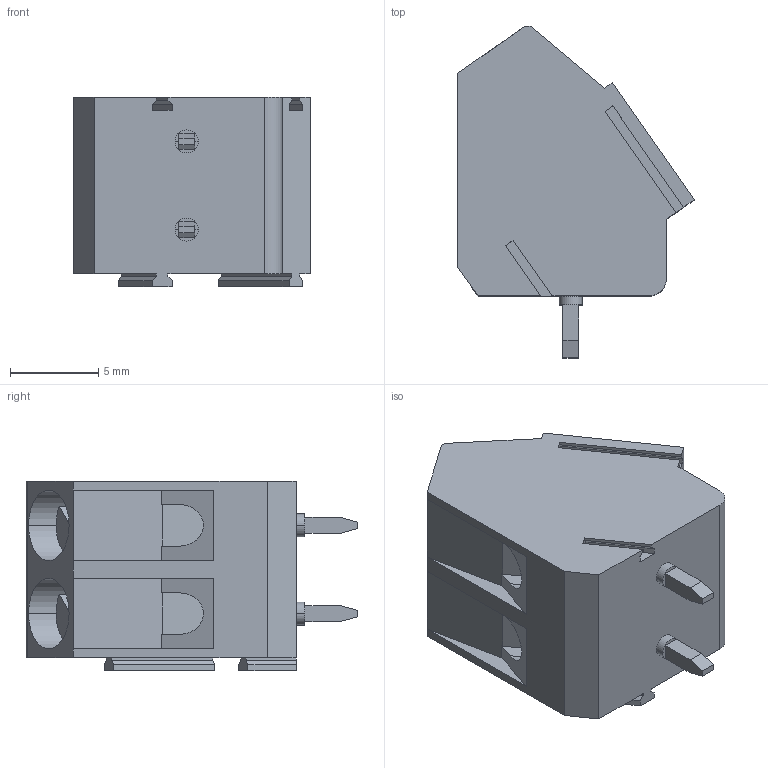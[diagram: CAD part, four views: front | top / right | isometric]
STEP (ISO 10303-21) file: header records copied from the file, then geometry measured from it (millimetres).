
FILE_DESCRIPTION(('SolidDesigner STEP Export'),'1');
FILE_NAME('smkdsp_1.5-2.stp','2000-06-20T13:11:02',(''),(''), 'SolidDesigner STEP processor Version: 7.0(Mar 1999)for AP214(CD)(Solid Model)', 'CoCreate SolidDesigner: 07.50 21-Dec-99(C) CoCreate Software GmbH','');
FILE_SCHEMA(('AUTOMOTIVE_DESIGN_CC2 {1 2 10303 214 -1 1 5 1}'));
Length unit declared in the file: millimetre
Products named in the file (2): smkdsp_1.5-2
Assembly tree (1 placements, depth 2):
  smkdsp_1.5-2
    smkdsp_1.5-2
Bounding box: 13.4 x 18.8 x 10.74 mm (x, y, z)
Volume: 1361.2 mm3; surface area: 1110.3 mm2
Topology: 1 solids, 1 shells, 162 faces, 432 edges, 286 vertices
Faces by surface type: plane 122, cylinder 40
Entity records: 6132 total; most frequent: ORIENTED_EDGE 864, CARTESIAN_POINT 835, DIRECTION 764, EDGE_CURVE 432, VECTOR 334, LINE 334, VERTEX_POINT 286, AXIS2_PLACEMENT_3D 215
